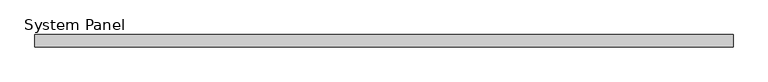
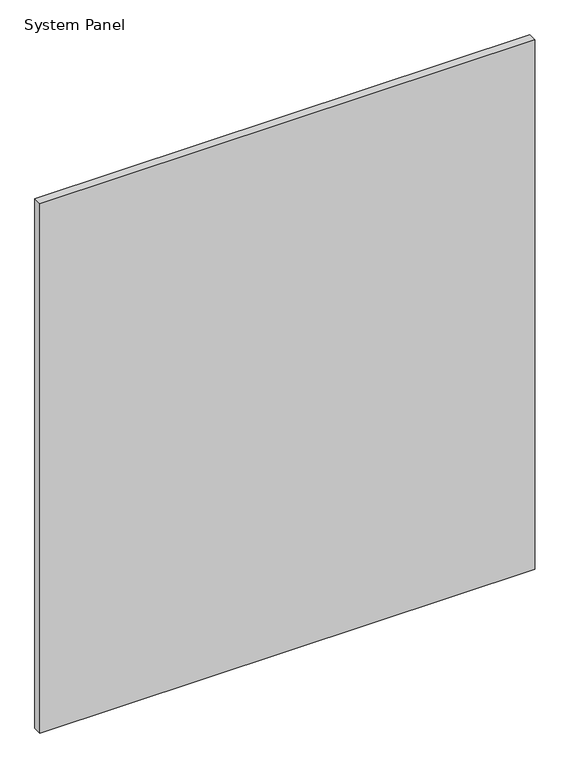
"""IFC4 building model written with IfcOpenShell, lengths in millimetres: plate geometry, System Panel : Panel_Glazed_Generic Showcase_30mm."""

from ifc_helpers import new_model, si_unit, origin, origin_with_axes, place, context, project, spatial, polyline, outline, extrude, source, transform, mapped, element, save


def system_panel_86b88c2a(model_context):
    return source(origin(), model_context, "Body", "SweptSolid", [
        extrude(outline(polyline([(862.5, -30.0), (-862.5, -30.0), (-862.5, 0.0), (862.5, 0.0), (862.5, -30.0)])), origin_with_axes(), (0.0, 0.0, 1.0), 1950.0),
    ])


if __name__ == "__main__":
    model = new_model("IFC4")
    model_context = context("Model", 3, world=origin())
    ifc_project = project(units=[si_unit("LENGTHUNIT", "METRE", prefix="MILLI")], contexts=[model_context])
    site = spatial("IfcSite", under=ifc_project)
    building = spatial("IfcBuilding", under=site)
    placement = place(None, origin())
    system_panel_shape = system_panel_86b88c2a(model_context)
    element("IfcPlate", 1, ObjectType="System Panel : Panel_Glazed_Generic Showcase_30mm", at=placement, inside=building, context=model_context, shape_type="MappedRepresentation", body=[
        mapped(system_panel_shape, transform((0.0, 0.0, 0.0), x_axis=(1.0, 0.0, 0.0), y_axis=(0.0, 1.0, 0.0), z_axis=(0.0, 0.0, 1.0))),
    ])
    save(model, "model.ifc")
